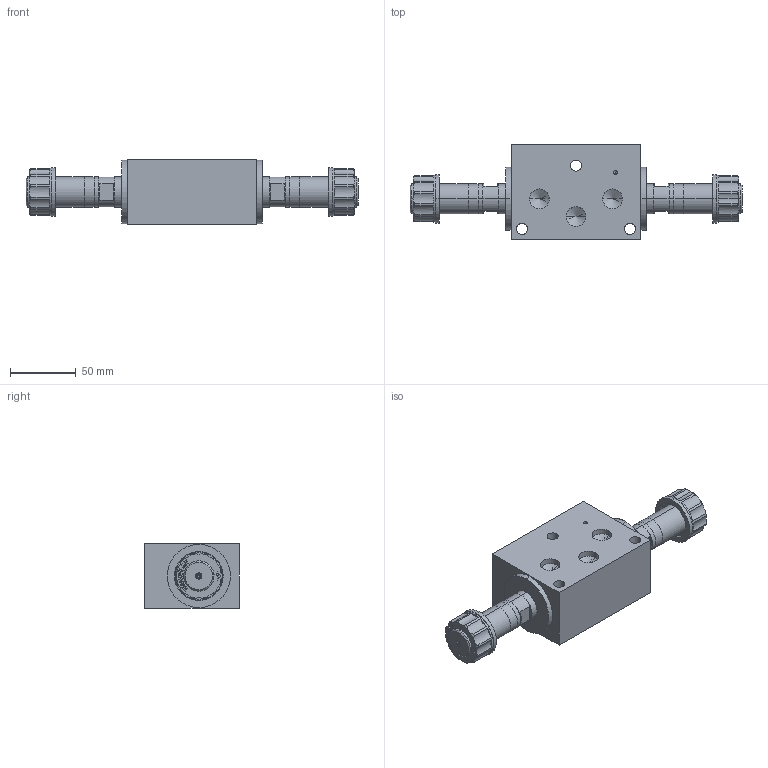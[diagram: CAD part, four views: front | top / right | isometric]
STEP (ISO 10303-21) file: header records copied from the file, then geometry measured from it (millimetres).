
FILE_DESCRIPTION (( 'STEP AP214' ), '1' );
FILE_NAME ('End Control Section CMVA-EA06-B actuation at A and B.STEP', '2025-11-12T13:46:59', ( '' ), ( '' ), 'SwSTEP 2.0', 'SolidWorks 2024', '' );
FILE_SCHEMA (( 'AUTOMOTIVE_DESIGN' ));
Length unit declared in the file: millimetre
Products named in the file (1): End Control Section CMVA-EA06-B actuation at A and B
Bounding box: 252.5 x 72 x 49 mm (x, y, z)
Volume: 389384.5 mm3; surface area: 85699.5 mm2
Topology: 20 solids, 20 shells, 1479 faces, 3661 edges, 2271 vertices
Faces by surface type: plane 914, cylinder 239, cone 207, torus 78, bspline 41
Entity records: 45487 total; most frequent: CARTESIAN_POINT 9989, DIRECTION 7385, ORIENTED_EDGE 7254, EDGE_CURVE 3627, AXIS2_PLACEMENT_3D 2487, LINE 2411, VECTOR 2411, VERTEX_POINT 2271
